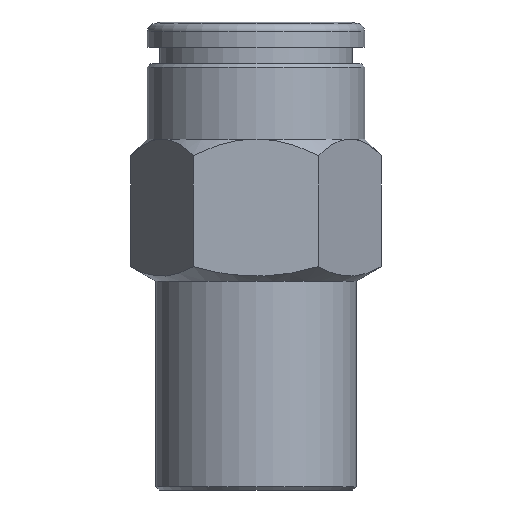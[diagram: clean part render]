
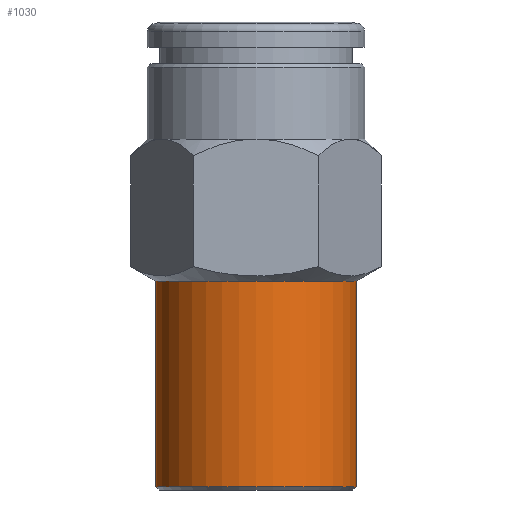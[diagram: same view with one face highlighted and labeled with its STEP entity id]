
A CAD part, front view. The second image highlights one B-rep face of the part: STEP entity #1030.
In plain terms, the highlighted cylindrical face has radius 6 mm (diameter 12 mm), a full revolution.
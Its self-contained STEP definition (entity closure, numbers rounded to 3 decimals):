
#1030=ADVANCED_FACE('', (#1040,#1050), #1060, .T.);
#3800=AXIS2_PLACEMENT_3D('Ax2Pl3d', #3810, #3820, #3830);
#3960=AXIS2_PLACEMENT_3D('Ax2Pl3d', #3970, #3980, #3990);
#4000=AXIS2_PLACEMENT_3D('Ax2Pl3d', #4010, #4020, #4030);
#3810=CARTESIAN_POINT('HicPkt', (3.885,9.042,
12.433));
#7130=CARTESIAN_POINT('', (3.885,3.042,12.433));
#3970=CARTESIAN_POINT('HicPkt', (3.885,9.042,
0.133));
#7140=CARTESIAN_POINT('', (3.885,3.042,0.133));
#4010=CARTESIAN_POINT('HicPkt', (3.885,9.042,
12.433));
#7550=CIRCLE('Circle', #3800, 6.);
#7560=CIRCLE('Circle', #3960, 6.);
#1060=CYLINDRICAL_SURFACE('Zyl', #4000, 6.);
#3820=DIRECTION('Axis', (0.,0.,-1.));
#3830=DIRECTION('RefDirection', (-1.,-0.,0.));
#3980=DIRECTION('Axis', (0.,0.,-1.));
#3990=DIRECTION('RefDirection', (-1.,-0.,0.));
#4020=DIRECTION('Axis', (0.,0.,-1.));
#4030=DIRECTION('RefDirection', (-1.,-0.,0.));
#10830=EDGE_CURVE('', #10840, #10840, #7550, .T.);
#10850=EDGE_CURVE('', #10860, #10860, #7560, .T.);
#12410=EDGE_LOOP('Edge_loop', (#12420));
#12430=EDGE_LOOP('Edge_loop', (#12440));
#1050=FACE_BOUND('', #12430, .T.);
#1040=FACE_OUTER_BOUND('Face_outer_bound', #12410, .T.);
#12420=ORIENTED_EDGE('', *, *, #10830, .T.);
#12440=ORIENTED_EDGE('', *, *, #10850, .F.);
#10840=VERTEX_POINT('', #7130);
#10860=VERTEX_POINT('', #7140);
